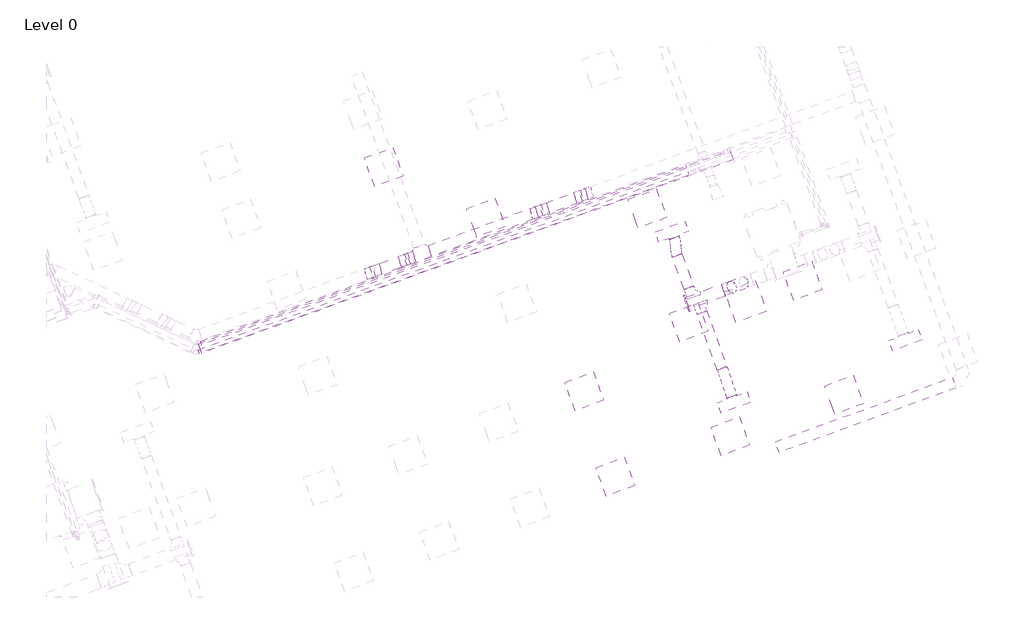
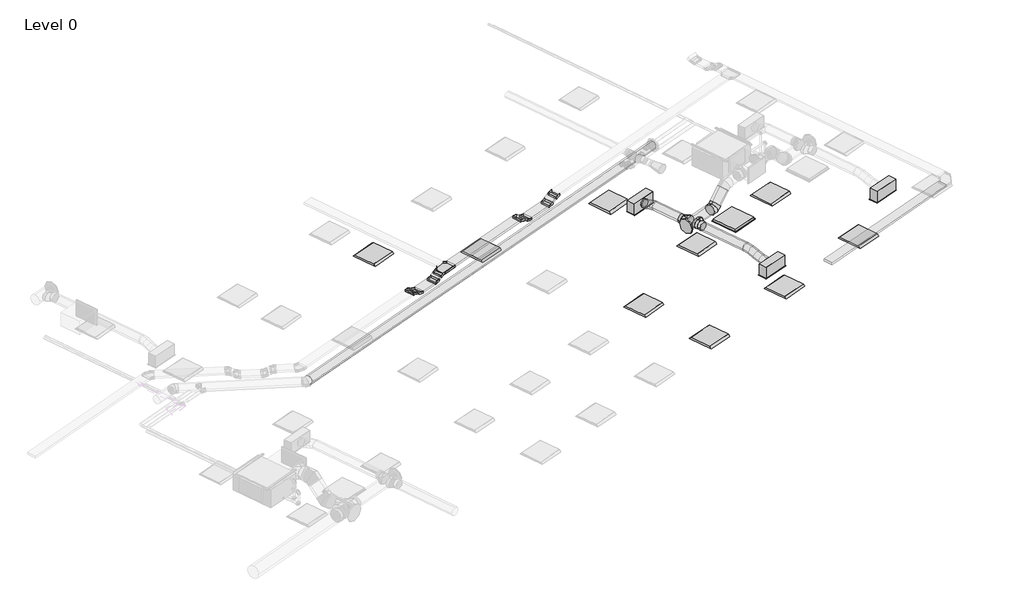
# One storey, part 28 of 34: 9 cable carrier fittings, 9 light fixtures, 7 cable carrier segments, 7 duct segments, 4 air terminals, 4 duct fittings, 2 pipe segments.
"""IFC4 building model written with IfcOpenShell, lengths in millimetres."""

from ifc_helpers import new_model, si_unit, point, frame, frame_2d, origin, place, context, project, spatial, polyline, circle_curve, ellipse_curve, trimmed, segment, composite_curve, outline, extrude, transform, mapped, element, save
from ifc_brep_helpers import plane_surface, cylinder_surface, advanced_brep
from components import return_grille_rectangular_hosted_standard_7b12617c, supply_diffuser_with_plenum_linear_slot_hosted_8c379eed, cable_tray_horizontal_tee_standard_d76b5e15, cable_tray_vertical_inside_bend_standard_9a66f55b, cable_tray_vertical_outside_bend_standard_4df2047e, dw144_round_blank_end_standard_e3d0b58b, dw144_round_segmented_bend_slip_joint_standard_636bd9c1, dw144_round_shoe_branch_slip_joint1_standard_2_559552f4, light_fixture_1c7c1157, light_fixture_b730b5ca

model = new_model("IFC4")

# Units and contexts
model_context = context("Model", 3, world=origin())
ifc_project = project(units=[si_unit("LENGTHUNIT", "METRE", prefix="MILLI")], contexts=[model_context])

# Site, building, storey
site = spatial("IfcSite", under=ifc_project)
building = spatial("IfcBuilding", under=site)
storey = spatial("IfcBuildingStorey", under=building, Name="Level 0", Elevation=0.0)

# Air terminals
placement = place(None, origin())
return_grille_rectangular_hosted_standard_shape = return_grille_rectangular_hosted_standard_7b12617c(model_context)
element("IfcAirTerminal", 1, ObjectType="Return Grille - Rectangular - Hosted : Standard", at=placement, inside=storey, context=model_context, shape_type="MappedRepresentation", body=[
    mapped(return_grille_rectangular_hosted_standard_shape, transform((60068.7424503, 13719.2784407, 2800.0), x_axis=(0.9396926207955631, 0.3420201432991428, 0.0), y_axis=(0.3420201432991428, -0.9396926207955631, 0.0), z_axis=(0.0, 0.0, -1.0))),
])
supply_diffuser_with_plenum_linear_slot_hosted_shape = supply_diffuser_with_plenum_linear_slot_hosted_8c379eed(model_context)
element("IfcAirTerminal", 2, ObjectType="Supply Diffuser with Plenum - Linear Slot - Hosted : 24\" x 8\"-200 In Inlet  4-Slot", at=placement, inside=storey, context=model_context, shape_type="MappedRepresentation", body=[
    mapped(supply_diffuser_with_plenum_linear_slot_hosted_shape, transform((58607.3828335, 15102.9070291, 2800.0), x_axis=(-0.9396926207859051, -0.3420201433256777, 0.0), y_axis=(-0.3420201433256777, 0.9396926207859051, 0.0), z_axis=(0.0, 0.0, -1.0))),
])
element("IfcAirTerminal", 3, ObjectType="Supply Diffuser with Plenum - Linear Slot - Hosted : 24\" x 8\"-200 In Inlet  4-Slot", at=placement, inside=storey, context=model_context, shape_type="MappedRepresentation", body=[
    mapped(supply_diffuser_with_plenum_linear_slot_hosted_shape, transform((59838.6553495, 11720.0135943, 2800.0), x_axis=(0.9396926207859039, 0.342020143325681, 0.0), y_axis=(0.342020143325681, -0.9396926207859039, 0.0), z_axis=(0.0, 0.0, -1.0))),
])
element("IfcAirTerminal", 4, ObjectType="Supply Diffuser with Plenum - Linear Slot - Hosted : 24\" x 8\"-200 In Inlet  4-Slot", at=placement, inside=storey, context=model_context, shape_type="MappedRepresentation", body=[
    mapped(supply_diffuser_with_plenum_linear_slot_hosted_shape, transform((63232.5431876, 12955.2877458, 2800.0), x_axis=(0.9396926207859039, 0.342020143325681, 0.0), y_axis=(0.342020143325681, -0.9396926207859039, 0.0), z_axis=(0.0, 0.0, -1.0))),
])

# Cable carrier fittings
cable_tray_horizontal_tee_standard_shape = cable_tray_horizontal_tee_standard_d76b5e15(model_context)
element("IfcCableCarrierFitting", 5, ObjectType="Cable Tray Horizontal Tee : Standard", at=placement, inside=storey, context=model_context, shape_type="MappedRepresentation", body=[
    mapped(cable_tray_horizontal_tee_standard_shape, transform((53662.1916852, 14665.8825169, 3248.9627355), x_axis=(-0.9396926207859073, -0.3420201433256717, 0.0), y_axis=(0.3420201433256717, -0.9396926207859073, 0.0), z_axis=(0.0, 0.0, 1.0))),
])
cable_tray_vertical_inside_bend_standard_shape = cable_tray_vertical_inside_bend_standard_9a66f55b(model_context)
element("IfcCableCarrierFitting", 6, ObjectType="Cable Tray Vertical Inside Bend : Standard", at=placement, inside=storey, context=model_context, shape_type="MappedRepresentation", body=[
    mapped(cable_tray_vertical_inside_bend_standard_shape, transform((56092.1995201, 15550.3330379, 3125.0), x_axis=(-0.9396926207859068, -0.3420201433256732, 0.0), y_axis=(0.0, 0.0, 1.0), z_axis=(-0.3420201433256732, 0.9396926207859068, 0.0))),
])
element("IfcCableCarrierFitting", 7, ObjectType="Cable Tray Vertical Inside Bend : Standard", at=placement, inside=storey, context=model_context, shape_type="MappedRepresentation", body=[
    mapped(cable_tray_vertical_inside_bend_standard_shape, transform((56761.0702068, 15793.7820584, 3125.0), x_axis=(-0.8137976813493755, -0.29619813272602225, -0.4999999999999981), y_axis=(-0.46984631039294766, -0.17101007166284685, 0.8660254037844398), z_axis=(-0.3420201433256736, 0.9396926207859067, 0.0))),
])
element("IfcCableCarrierFitting", 8, ObjectType="Cable Tray Vertical Inside Bend : Standard", at=placement, inside=storey, context=model_context, shape_type="MappedRepresentation", body=[
    mapped(cable_tray_vertical_inside_bend_standard_shape, transform((52776.5170732, 14343.5233209, 3148.9627355), x_axis=(-0.9396926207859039, -0.3420201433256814, 0.0), y_axis=(0.0, 0.0, 1.0000000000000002), z_axis=(-0.3420201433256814, 0.9396926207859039, 0.0))),
])
element("IfcCableCarrierFitting", 9, ObjectType="Cable Tray Vertical Inside Bend : Standard", at=placement, inside=storey, context=model_context, shape_type="MappedRepresentation", body=[
    mapped(cable_tray_vertical_inside_bend_standard_shape, transform((53283.7846283, 14528.1536118, 3148.9627355), x_axis=(-0.8137976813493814, -0.29619813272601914, -0.4999999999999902), y_axis=(-0.4698463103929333, -0.17101007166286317, 0.8660254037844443), z_axis=(-0.3420201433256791, 0.9396926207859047, 0.0))),
])
cable_tray_vertical_outside_bend_standard_shape = cable_tray_vertical_outside_bend_standard_4df2047e(model_context)
element("IfcCableCarrierFitting", 10, ObjectType="Cable Tray Vertical Outside Bend : Standard", at=placement, inside=storey, context=model_context, shape_type="MappedRepresentation", body=[
    mapped(cable_tray_vertical_outside_bend_standard_shape, transform((55890.4383468, 15476.8979763, 3248.9627355), x_axis=(0.9396926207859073, 0.3420201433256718, 0.0), y_axis=(0.0, 0.0, -1.0000000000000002), z_axis=(-0.3420201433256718, 0.9396926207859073, 0.0))),
])
element("IfcCableCarrierFitting", 11, ObjectType="Cable Tray Vertical Outside Bend : Standard", at=placement, inside=storey, context=model_context, shape_type="MappedRepresentation", body=[
    mapped(cable_tray_vertical_outside_bend_standard_shape, transform((56962.8313802, 15867.2171199, 3248.9627355), x_axis=(0.8137976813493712, 0.29619813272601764, 0.5000000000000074), y_axis=(0.4698463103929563, 0.17101007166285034, -0.8660254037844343), z_axis=(-0.3420201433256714, 0.9396926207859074, 0.0))),
])
element("IfcCableCarrierFitting", 12, ObjectType="Cable Tray Vertical Outside Bend : Standard", at=placement, inside=storey, context=model_context, shape_type="MappedRepresentation", body=[
    mapped(cable_tray_vertical_outside_bend_standard_shape, transform((52613.757537, 14284.2836944, 3248.9627355), x_axis=(0.9396926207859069, 0.34202014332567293, 0.0), y_axis=(0.0, 0.0, -1.0), z_axis=(-0.34202014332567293, 0.9396926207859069, 0.0))),
])
element("IfcCableCarrierFitting", 13, ObjectType="Cable Tray Vertical Outside Bend : Standard", at=placement, inside=storey, context=model_context, shape_type="MappedRepresentation", body=[
    mapped(cable_tray_vertical_outside_bend_standard_shape, transform((53446.5441646, 14587.3932383, 3248.9627355), x_axis=(0.8137976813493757, 0.29619813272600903, 0.5000000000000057), y_axis=(0.4698463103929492, 0.17101007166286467, -0.8660254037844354), z_axis=(-0.34202014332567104, 0.9396926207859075, 0.0))),
])

# Cable carrier segments
element("IfcCableCarrierSegment", 14, ObjectType="Perforated Cable Tray", at=placement, inside=storey, context=model_context, shape_type="SweptSolid", body=[
    extrude(outline(polyline([(53853.3690022, 14615.7453704), (53776.4144699, 14827.17621), (55789.0136109, 15559.7023909), (55865.9681432, 15348.2715512), (53853.3690022, 14615.7453704)])), frame((0.0, 0.0, 3223.9627355), z_axis=(0.0, 0.0, 1.0), x_axis=(1.0, 0.0, 0.0)), (0.0, 0.0, 1.0), 50.0),
])
element("IfcCableCarrierSegment", 15, ObjectType="Perforated Cable Tray", at=placement, inside=storey, context=model_context, shape_type="SweptSolid", body=[
    extrude(outline(polyline([(0.0, -225.0), (0.0, 0.0), (113.9508747, 0.0), (113.9508747, -225.0), (0.0, -225.0)])), frame((55894.7290307, 15598.179657, 3193.8184513), z_axis=(0.4698463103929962, 0.1710100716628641, 0.8660254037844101), x_axis=(0.8137976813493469, 0.29619813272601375, -0.5000000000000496)), (0.0, 0.0, 1.0), 50.0),
])
element("IfcCableCarrierSegment", 16, ObjectType="Perforated Cable Tray", at=placement, inside=storey, context=model_context, shape_type="SweptSolid", body=[
    extrude(outline(polyline([(56193.624256, 15467.5286233), (56116.6697237, 15678.959463), (56659.645471, 15876.5864729), (56736.6000032, 15665.1556332), (56193.624256, 15467.5286233)])), frame((0.0, 0.0, 3100.0), z_axis=(0.0, 0.0, 1.0), x_axis=(1.0, 0.0, 0.0)), (0.0, 0.0, 1.0), 50.0),
])
element("IfcCableCarrierSegment", 17, ObjectType="Perforated Cable Tray", at=placement, inside=storey, context=model_context, shape_type="SweptSolid", body=[
    extrude(outline(polyline([(1e-07, -224.9999999), (0.0, 0.0), (113.9508747, 0.0), (113.9508747, -224.9999999), (1e-07, -224.9999999)])), frame((56788.8532063, 15923.6142426, 3136.843014), z_axis=(-0.4698463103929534, -0.17101007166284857, 0.8660254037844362), x_axis=(0.813797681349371, 0.2961981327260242, 0.5000000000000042)), (0.0, 0.0, 1.0), 50.0),
])
element("IfcCableCarrierSegment", 18, ObjectType="Perforated Cable Tray", at=placement, inside=storey, context=model_context, shape_type="SweptSolid", body=[
    extrude(outline(polyline([(64157.7578179, 12218.7489992), (64234.7123502, 12007.3181595), (60729.218143, 10731.4226117), (60652.2636108, 10942.8534514), (64157.7578179, 12218.7489992)])), frame((0.0, 0.0, 3223.9627355), z_axis=(0.0, 0.0, 1.0), x_axis=(1.0, 0.0, 0.0)), (0.0, 0.0, 1.0), 50.0),
])
element("IfcCableCarrierSegment", 19, ObjectType="Perforated Cable Tray", at=placement, inside=storey, context=model_context, shape_type="SweptSolid", body=[
    extrude(outline(polyline([(52877.9418091, 14260.7189064), (52800.9872768, 14472.149746), (53182.3598925, 14610.9580263), (53259.3144247, 14399.5271866), (52877.9418091, 14260.7189064)])), frame((0.0, 0.0, 3123.9627355), z_axis=(0.0, 0.0, 1.0), x_axis=(1.0, 0.0, 0.0)), (0.0, 0.0, 1.0), 50.0),
])
element("IfcCableCarrierSegment", 20, ObjectType="Perforated Cable Tray", at=placement, inside=storey, context=model_context, shape_type="SweptSolid", body=[
    extrude(outline(polyline([(0.0, -225.0), (0.0, 0.0), (66.0254038, 0.0), (66.0254038, -225.0), (0.0, -225.0)])), frame((53311.5676278, 14657.985796, 3160.8057494), z_axis=(-0.46984631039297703, -0.17101007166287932, 0.8660254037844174), x_axis=(0.8137976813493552, 0.2961981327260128, 0.5000000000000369)), (0.0, 0.0, 1.0), 50.0),
])

# Duct fittings
dw144_round_blank_end_standard_shape = dw144_round_blank_end_standard_e3d0b58b(model_context)
element("IfcDuctFitting", 21, ObjectType="DW144 Round Blank End : Standard", at=placement, inside=storey, context=model_context, shape_type="MappedRepresentation", body=[
    mapped(dw144_round_blank_end_standard_shape, transform((58910.1934303, 13684.7593256, 3072.2088531), x_axis=(-0.9396926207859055, -0.3420201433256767, 0.0), y_axis=(0.3420201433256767, -0.9396926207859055, 0.0), z_axis=(0.0, 0.0, 1.0))),
])
dw144_round_segmented_bend_slip_joint_standard_shape = dw144_round_segmented_bend_slip_joint_standard_636bd9c1(model_context)
element("IfcDuctFitting", 22, ObjectType="DW144 Round Segmented Bend - Slip Joint : Standard", at=placement, inside=storey, context=model_context, shape_type="MappedRepresentation", body=[
    mapped(dw144_round_segmented_bend_slip_joint_standard_shape, transform((59723.6586367, 13980.8364474, 3072.2088531), x_axis=(-0.6644630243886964, -0.24184476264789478, -0.7071067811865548), y_axis=(-0.6644630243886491, -0.24184476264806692, 0.7071067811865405), z_axis=(-0.34202014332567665, 0.9396926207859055, 0.0))),
])
dw144_round_shoe_branch_slip_joint1_standard_2_shape = dw144_round_shoe_branch_slip_joint1_standard_2_559552f4(model_context)
element("IfcDuctFitting", 23, ObjectType="DW144 Round Shoe Branch - Slip Joint1 : Standard 2", at=placement, inside=storey, context=model_context, shape_type="MappedRepresentation", body=[
    mapped(dw144_round_shoe_branch_slip_joint1_standard_2_shape, transform((58998.2785619, 13849.8419132, 3072.2088531), x_axis=(-0.3420201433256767, 0.9396926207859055, 0.0), y_axis=(0.9396926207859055, 0.3420201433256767, 0.0), z_axis=(0.0, 0.0, -1.0))),
])
element("IfcDuctFitting", 24, ObjectType="DW144 Round Shoe Branch - Slip Joint1 : Standard 2", at=placement, inside=storey, context=model_context, shape_type="MappedRepresentation", body=[
    mapped(dw144_round_shoe_branch_slip_joint1_standard_2_shape, transform((59152.3357519, 13639.8697016, 3072.2088531), x_axis=(0.3420201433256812, -0.9396926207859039, 0.0), y_axis=(0.9396926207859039, 0.3420201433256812, 0.0), z_axis=(0.0, 0.0, 1.0))),
])

# Duct segments
element("IfcDuctSegment", 25, ObjectType="DW144 Segmented Bend / Shoe Branch", at=placement, inside=storey, context=model_context, shape_type="SweptSolid", body=[
    extrude(outline(composite_curve([segment(trimmed(circle_curve(frame_2d((0.0, 125.0)), 125.0), [point((125.0, 125.0))], [point((0.0, 0.0))], False, "CARTESIAN"), True, "CONTINUOUS"), segment(trimmed(circle_curve(frame_2d((0.0, 125.0)), 125.0), [point((0.0, 0.0))], [point((-125.0, 125.0))], False, "CARTESIAN"), True, "CONTINUOUS"), segment(trimmed(circle_curve(frame_2d((0.0, 125.0)), 125.0), [point((-125.0, 125.0))], [point((0.0, 250.0))], False, "CARTESIAN"), True, "CONTINUOUS"), segment(trimmed(circle_curve(frame_2d((0.0, 125.0)), 125.0), [point((0.0, 250.0))], [point((125.0, 125.0))], False, "CARTESIAN"), True, "CONTINUOUS")], self_intersect=False)), frame((58910.1934303, 13684.7593256, 3197.2088531), z_axis=(0.9396926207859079, 0.3420201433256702, 0.0), x_axis=(0.3420201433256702, -0.9396926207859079, 0.0)), (0.0, 0.0, 1.0), 762.1182008),
])
element("IfcDuctSegment", 26, ObjectType="DW144 Segmented Bend / Shoe Branch", at=placement, inside=storey, context=model_context, shape_type="SweptSolid", body=[
    extrude(outline(composite_curve([segment(trimmed(circle_curve(frame_2d((0.0, -100.0)), 100.0), [point((-100.0, -100.0))], [point((0.0, 0.0))], False, "CARTESIAN"), True, "CONTINUOUS"), segment(trimmed(circle_curve(frame_2d((0.0, -100.0)), 100.0), [point((0.0, 0.0))], [point((100.0, -100.0))], False, "CARTESIAN"), True, "CONTINUOUS"), segment(trimmed(circle_curve(frame_2d((0.0, -100.0)), 100.0), [point((100.0, -100.0))], [point((0.0, -200.0))], False, "CARTESIAN"), True, "CONTINUOUS"), segment(trimmed(circle_curve(frame_2d((0.0, -100.0)), 100.0), [point((0.0, -200.0))], [point((-100.0, -100.0))], False, "CARTESIAN"), True, "CONTINUOUS")], self_intersect=False)), frame((58946.9755404, 13990.7958063, 2972.2088531), z_axis=(-0.3420201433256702, 0.9396926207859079, 0.0), x_axis=(0.9396926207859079, 0.3420201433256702, 0.0)), (0.0, 0.0, 1.0), 682.8884371),
])
element("IfcDuctSegment", 27, ObjectType="DW144 Segmented Bend / Shoe Branch", at=placement, inside=storey, context=model_context, shape_type="SweptSolid", body=[
    extrude(outline(composite_curve([segment(trimmed(circle_curve(frame_2d((0.0, -100.0)), 100.0), [point((-100.0, -100.0))], [point((0.0, 0.0))], False, "CARTESIAN"), True, "CONTINUOUS"), segment(trimmed(circle_curve(frame_2d((0.0, -100.0)), 100.0), [point((0.0, 0.0))], [point((100.0, -100.0))], False, "CARTESIAN"), True, "CONTINUOUS"), segment(trimmed(circle_curve(frame_2d((0.0, -100.0)), 100.0), [point((100.0, -100.0))], [point((0.0, -200.0))], False, "CARTESIAN"), True, "CONTINUOUS"), segment(trimmed(circle_curve(frame_2d((0.0, -100.0)), 100.0), [point((0.0, -200.0))], [point((-100.0, -100.0))], False, "CARTESIAN"), True, "CONTINUOUS")], self_intersect=False)), frame((59604.382353, 12397.8818724, 2972.2088531), z_axis=(-0.3420201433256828, 0.9396926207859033, 0.0), x_axis=(0.9396926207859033, 0.3420201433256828, 0.0)), (0.0, 0.0, 1.0), 1171.6958415),
])
element("IfcDuctSegment", 28, ObjectType="DW144 Segmented Bend / Shoe Branch", at=placement, inside=storey, context=model_context, shape_type="SweptSolid", body=[
    extrude(outline(composite_curve([segment(trimmed(circle_curve(frame_2d((0.0, -125.0)), 125.0), [point((-57.2076922, -13.8591887))], [point((111.1408113, -67.7923077))], False, "CARTESIAN"), True, "CONTINUOUS"), segment(trimmed(circle_curve(frame_2d((0.0, -125.0)), 125.0), [point((111.1408113, -67.7923077))], [point((57.2076923, -236.1408114))], False, "CARTESIAN"), True, "CONTINUOUS"), segment(trimmed(circle_curve(frame_2d((0.0, -125.0)), 125.0), [point((57.2076923, -236.1408114))], [point((-111.1408114, -182.2076923))], False, "CARTESIAN"), True, "CONTINUOUS"), segment(trimmed(circle_curve(frame_2d((0.0, -125.0)), 125.0), [point((-111.1408114, -182.2076923))], [point((-57.2076922, -13.8591887))], False, "CARTESIAN"), True, "CONTINUOUS")], self_intersect=False)), frame((59792.4660358, 14124.1538736, 3104.9802107), z_axis=(0.6644630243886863, 0.24184476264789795, 0.7071067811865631), x_axis=(0.7473211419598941, -0.21503058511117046, -0.6287073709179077)), (0.0, 0.0, 1.0), 354.8538129),
])
element("IfcDuctSegment", 29, ObjectType="DW144 Segmented Bend / Shoe Branch", at=placement, inside=storey, context=model_context, shape_type="SweptSolid", body=[
    extrude(outline(composite_curve([segment(trimmed(circle_curve(frame_2d((0.0, 100.0)), 100.0), [point((100.0, 100.0))], [point((0.0, 0.0))], False, "CARTESIAN"), True, "CONTINUOUS"), segment(trimmed(circle_curve(frame_2d((0.0, 100.0)), 100.0), [point((0.0, 0.0))], [point((-100.0, 100.0))], False, "CARTESIAN"), True, "CONTINUOUS"), segment(trimmed(circle_curve(frame_2d((0.0, 100.0)), 100.0), [point((-100.0, 100.0))], [point((0.0, 200.0))], False, "CARTESIAN"), True, "CONTINUOUS"), segment(trimmed(circle_curve(frame_2d((0.0, 100.0)), 100.0), [point((0.0, 200.0))], [point((100.0, 100.0))], False, "CARTESIAN"), True, "CONTINUOUS")], self_intersect=False)), frame((49264.7509772, 12791.2817801, 3150.0), z_axis=(0.9396926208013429, 0.3420201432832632, 0.0), x_axis=(0.3420201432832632, -0.9396926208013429, 0.0)), (0.0, 0.0, 1.0), 11193.8317045),
])
element("IfcDuctSegment", 30, ObjectType="Flex - Round", at=placement, inside=storey, context=model_context, shape_type="AdvancedBrep", body=[
    advanced_brep(
    [(58619.4446772, 14598.2990171, 3072.2088531), (58713.4139393, 14632.5010315, 2972.2088531), (58807.3832013, 14666.7030458, 3072.2088531), (58713.4139393, 14632.5010315, 3172.2088531), (58611.8142221, 14619.26352, 3072.2088531), (58711.4296321, 14637.9528704, 2972.2088531), (58803.6155299, 14677.054638, 3072.2088531), (58704.0001199, 14658.3652876, 3172.2088531), (58557.4999679, 14947.578636, 2954.4), (58651.46923, 14981.7806503, 3054.4), (58745.4384921, 15015.9826646, 2954.4), (58651.46923, 14981.7806503, 2854.4), (58596.4446641, 14683.4841683, 3057.7411781), (58702.9406834, 14673.4233627, 2964.2180345), (58792.9533059, 14721.6060124, 3062.1722867), (58686.4572866, 14731.6668179, 3155.6954303), (58586.4251451, 14759.2467003, 3026.0114711), (58695.241092, 14731.6437764, 2939.8350497), (58784.5209536, 14785.3671928, 3035.4688025), (58675.7050067, 14812.9701167, 3121.645224), (58580.3622156, 14828.914489, 2991.1400506), (58689.1781625, 14801.3115651, 2904.9636291), (58778.4580242, 14855.0349815, 3000.597382), (58669.6420773, 14882.6379054, 3086.7738035), (58571.9298634, 14892.6756694, 2964.4365665), (58678.4258827, 14882.6148638, 2870.9134228), (58768.4385052, 14930.7975135, 2968.867675), (58661.9424858, 14940.858319, 3062.3908187), (58561.2676394, 14937.2270437, 2954.4), (58660.8830494, 14955.9163941, 2854.4), (58753.0689471, 14995.0181618, 2954.4), (58653.4535371, 14976.3288113, 3054.4)],
    [
        (0, 1, circle_curve(frame((58713.4139393, 14632.5010315, 3072.2088531), z_axis=(0.3420201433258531, -0.9396926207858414, 0.0), x_axis=(-0.9396926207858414, -0.3420201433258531, 0.0)), 100.0)),
        (1, 2, circle_curve(frame((58713.4139393, 14632.5010315, 3072.2088531), z_axis=(0.3420201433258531, -0.9396926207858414, 0.0), x_axis=(-0.9396926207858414, -0.3420201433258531, 0.0)), 100.0)),
        (2, 3, circle_curve(frame((58713.4139393, 14632.5010315, 3072.2088531), z_axis=(0.3420201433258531, -0.9396926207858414, 0.0), x_axis=(-0.9396926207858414, -0.3420201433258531, 0.0)), 100.0)),
        (3, 0, circle_curve(frame((58713.4139393, 14632.5010315, 3072.2088531), z_axis=(0.3420201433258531, -0.9396926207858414, 0.0), x_axis=(-0.9396926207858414, -0.3420201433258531, 0.0)), 100.0)),
        (0, 4),
        (4, 5, ellipse_curve(frame((58707.714876, 14648.159079, 3072.2088531), z_axis=(0.2868145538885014, -0.951900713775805, 0.10780743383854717), x_axis=(0.47182638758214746, 0.042424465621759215, -0.8806702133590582)), 100.746488, 100.0)),
        (5, 1),
        (5, 6, ellipse_curve(frame((58707.714876, 14648.159079, 3072.2088531), z_axis=(0.2868145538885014, -0.951900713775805, 0.10780743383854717), x_axis=(0.47182638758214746, 0.042424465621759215, -0.8806702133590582)), 100.746488, 100.0)),
        (6, 2),
        (6, 7, ellipse_curve(frame((58707.714876, 14648.159079, 3072.2088531), z_axis=(0.2868145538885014, -0.951900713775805, 0.10780743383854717), x_axis=(0.47182638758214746, 0.042424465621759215, -0.8806702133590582)), 100.746488, 100.0)),
        (7, 3),
        (7, 4, ellipse_curve(frame((58707.714876, 14648.159079, 3072.2088531), z_axis=(0.2868145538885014, -0.951900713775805, 0.10780743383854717), x_axis=(0.47182638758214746, 0.042424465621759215, -0.8806702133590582)), 100.746488, 100.0)),
        (8, 9, circle_curve(frame((58651.46923, 14981.7806503, 2954.4), z_axis=(-0.3420201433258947, 0.939692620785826, 0.0), x_axis=(-0.9396926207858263, -0.34202014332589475, 0.0)), 100.0)),
        (9, 10, circle_curve(frame((58651.46923, 14981.7806503, 2954.4), z_axis=(-0.3420201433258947, 0.939692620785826, 0.0), x_axis=(-0.9396926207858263, -0.34202014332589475, 0.0)), 100.0)),
        (10, 11, circle_curve(frame((58651.46923, 14981.7806503, 2954.4), z_axis=(-0.3420201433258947, 0.939692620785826, 0.0), x_axis=(-0.9396926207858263, -0.34202014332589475, 0.0)), 100.0)),
        (11, 8, circle_curve(frame((58651.46923, 14981.7806503, 2954.4), z_axis=(-0.3420201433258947, 0.939692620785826, 0.0), x_axis=(-0.9396926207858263, -0.34202014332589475, 0.0)), 100.0)),
        (4, 12),
        (12, 13, ellipse_curve(frame((58694.698985, 14702.5450903, 3059.9567324), z_axis=(0.17512607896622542, -0.9376352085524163, 0.3002849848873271), x_axis=(0.5236540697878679, -0.16957305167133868, -0.8348840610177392)), 100.5188435, 100.0)),
        (13, 5),
        (13, 14, ellipse_curve(frame((58694.698985, 14702.5450903, 3059.9567324), z_axis=(0.17512607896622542, -0.9376352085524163, 0.3002849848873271), x_axis=(0.5236540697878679, -0.16957305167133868, -0.8348840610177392)), 100.5188435, 100.0)),
        (14, 6),
        (14, 15, ellipse_curve(frame((58694.698985, 14702.5450903, 3059.9567324), z_axis=(0.17512607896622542, -0.9376352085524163, 0.3002849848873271), x_axis=(0.5236540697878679, -0.16957305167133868, -0.8348840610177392)), 100.5188435, 100.0)),
        (15, 7),
        (15, 12, ellipse_curve(frame((58694.698985, 14702.5450903, 3059.9567324), z_axis=(0.17512607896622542, -0.9376352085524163, 0.3002849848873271), x_axis=(0.5236540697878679, -0.16957305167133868, -0.8348840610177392)), 100.5188435, 100.0)),
        (12, 16),
        (16, 17, ellipse_curve(frame((58685.4730493, 14772.3069465, 3030.7401368), z_axis=(0.0994162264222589, -0.9042889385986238, 0.4151842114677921), x_axis=(0.5431382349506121, -0.3002937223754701, -0.7841074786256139)), 100.0802707, 100.0)),
        (17, 13),
        (17, 18, ellipse_curve(frame((58685.4730493, 14772.3069465, 3030.7401368), z_axis=(0.0994162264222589, -0.9042889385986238, 0.4151842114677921), x_axis=(0.5431382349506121, -0.3002937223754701, -0.7841074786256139)), 100.0802707, 100.0)),
        (18, 14),
        (18, 19, ellipse_curve(frame((58685.4730493, 14772.3069465, 3030.7401368), z_axis=(0.0994162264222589, -0.9042889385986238, 0.4151842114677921), x_axis=(0.5431382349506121, -0.3002937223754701, -0.7841074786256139)), 100.0802707, 100.0)),
        (19, 15),
        (19, 16, ellipse_curve(frame((58685.4730493, 14772.3069465, 3030.7401368), z_axis=(0.0994162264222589, -0.9042889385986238, 0.4151842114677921), x_axis=(0.5431382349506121, -0.3002937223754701, -0.7841074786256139)), 100.0802707, 100.0)),
        (16, 20),
        (20, 21, ellipse_curve(frame((58679.4101199, 14841.9747352, 2995.8687163), z_axis=(0.09941622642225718, -0.9042889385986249, 0.41518421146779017), x_axis=(-0.5431382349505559, 0.30029372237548, 0.784107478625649)), 100.0802707, 100.0)),
        (21, 17),
        (21, 22, ellipse_curve(frame((58679.4101199, 14841.9747352, 2995.8687163), z_axis=(0.09941622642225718, -0.9042889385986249, 0.41518421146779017), x_axis=(-0.5431382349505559, 0.30029372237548, 0.784107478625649)), 100.0802707, 100.0)),
        (22, 18),
        (22, 23, ellipse_curve(frame((58679.4101199, 14841.9747352, 2995.8687163), z_axis=(0.09941622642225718, -0.9042889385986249, 0.41518421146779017), x_axis=(-0.5431382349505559, 0.30029372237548, 0.784107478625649)), 100.0802707, 100.0)),
        (23, 19),
        (23, 20, ellipse_curve(frame((58679.4101199, 14841.9747352, 2995.8687163), z_axis=(0.09941622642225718, -0.9042889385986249, 0.41518421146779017), x_axis=(-0.5431382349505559, 0.30029372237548, 0.784107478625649)), 100.0802707, 100.0)),
        (20, 24),
        (24, 25, ellipse_curve(frame((58670.1841843, 14911.7365914, 2966.6521207), z_axis=(0.1751260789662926, -0.9376352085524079, 0.3002849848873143), x_axis=(-0.523654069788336, 0.16957305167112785, 0.8348840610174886)), 100.5188435, 100.0)),
        (25, 21),
        (25, 26, ellipse_curve(frame((58670.1841843, 14911.7365914, 2966.6521207), z_axis=(0.1751260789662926, -0.9376352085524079, 0.3002849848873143), x_axis=(-0.523654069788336, 0.16957305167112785, 0.8348840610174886)), 100.5188435, 100.0)),
        (26, 22),
        (26, 27, ellipse_curve(frame((58670.1841843, 14911.7365914, 2966.6521207), z_axis=(0.1751260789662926, -0.9376352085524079, 0.3002849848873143), x_axis=(-0.523654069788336, 0.16957305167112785, 0.8348840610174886)), 100.5188435, 100.0)),
        (27, 23),
        (27, 24, ellipse_curve(frame((58670.1841843, 14911.7365914, 2966.6521207), z_axis=(0.1751260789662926, -0.9376352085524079, 0.3002849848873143), x_axis=(-0.523654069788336, 0.16957305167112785, 0.8348840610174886)), 100.5188435, 100.0)),
        (24, 28),
        (28, 29, ellipse_curve(frame((58657.1682932, 14966.1226027, 2954.4), z_axis=(0.2868145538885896, -0.95190071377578, 0.10780743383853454), x_axis=(-0.4718263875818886, -0.04242446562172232, 0.8806702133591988)), 100.746488, 100.0)),
        (29, 25),
        (29, 30, ellipse_curve(frame((58657.1682932, 14966.1226027, 2954.4), z_axis=(0.2868145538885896, -0.95190071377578, 0.10780743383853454), x_axis=(-0.4718263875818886, -0.04242446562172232, 0.8806702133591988)), 100.746488, 100.0)),
        (30, 26),
        (30, 31, ellipse_curve(frame((58657.1682932, 14966.1226027, 2954.4), z_axis=(0.2868145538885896, -0.95190071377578, 0.10780743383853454), x_axis=(-0.4718263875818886, -0.04242446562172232, 0.8806702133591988)), 100.746488, 100.0)),
        (31, 27),
        (31, 28, ellipse_curve(frame((58657.1682932, 14966.1226027, 2954.4), z_axis=(0.2868145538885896, -0.95190071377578, 0.10780743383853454), x_axis=(-0.4718263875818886, -0.04242446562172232, 0.8806702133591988)), 100.746488, 100.0)),
        (28, 8),
        (11, 29),
        (10, 30),
        (9, 31),
    ],
    [
        plane_surface(frame((58713.4139393, 14632.5010315, 3172.2088531), z_axis=(0.3420201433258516, -0.9396926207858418, 0.0), x_axis=(0.9396926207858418, 0.3420201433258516, 0.0))),
        cylinder_surface(frame((58713.4139393, 14632.5010315, 3072.2088531), z_axis=(0.3420201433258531, -0.9396926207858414, 0.0), x_axis=(-0.9396926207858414, -0.3420201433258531, 0.0)), 100.0),
        plane_surface(frame((58651.46923, 14981.7806503, 3054.4), z_axis=(-0.3420201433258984, 0.9396926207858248, 0.0), x_axis=(0.9396926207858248, 0.3420201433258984, 0.0))),
        cylinder_surface(frame((58707.714876, 14648.159079, 3072.2088531), z_axis=(0.2273586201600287, -0.950002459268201, 0.21401725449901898), x_axis=(-0.9718455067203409, -0.23530883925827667, -0.012085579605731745)), 100.0),
        cylinder_surface(frame((58694.698985, 14702.5450903, 3059.9567324), z_axis=(0.12108565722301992, -0.9155884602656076, 0.3834527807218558), x_axis=(-0.9882405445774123, -0.1475288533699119, -0.0401978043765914)), 100.0),
        cylinder_surface(frame((58685.4730493, 14772.3069465, 3030.7401368), z_axis=(0.07758731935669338, -0.8915388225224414, 0.44624963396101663), x_axis=(-0.9919133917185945, -0.1141206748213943, -0.05553642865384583)), 100.0),
        cylinder_surface(frame((58679.4101199, 14841.9747352, 2995.8687163), z_axis=(0.12108565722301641, -0.9155884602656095, 0.3834527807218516), x_axis=(-0.9882405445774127, -0.1475288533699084, -0.040197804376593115)), 100.0),
        cylinder_surface(frame((58670.1841843, 14911.7365914, 2966.6521207), z_axis=(0.22735862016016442, -0.950002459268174, 0.21401725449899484), x_axis=(-0.9718455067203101, -0.2353088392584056, -0.012085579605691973)), 100.0),
        cylinder_surface(frame((58657.1682932, 14966.1226027, 2954.4), z_axis=(0.34202014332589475, -0.9396926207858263, 0.0), x_axis=(-0.9396926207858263, -0.34202014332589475, 0.0)), 100.0),
    ],
    [
        (0, [[1, 2, 3, 4]]),
        (1, [[-1, 5, 6, 7]]),
        (1, [[-2, -7, 8, 9]]),
        (1, [[-3, -9, 10, 11]]),
        (1, [[-4, -11, 12, -5]]),
        (2, [[13, 14, 15, 16]]),
        (3, [[-6, 17, 18, 19]]),
        (3, [[-8, -19, 20, 21]]),
        (3, [[-10, -21, 22, 23]]),
        (3, [[-12, -23, 24, -17]]),
        (4, [[-18, 25, 26, 27]]),
        (4, [[-20, -27, 28, 29]]),
        (4, [[-22, -29, 30, 31]]),
        (4, [[-24, -31, 32, -25]]),
        (5, [[-26, 33, 34, 35]]),
        (5, [[-28, -35, 36, 37]]),
        (5, [[-30, -37, 38, 39]]),
        (5, [[-32, -39, 40, -33]]),
        (6, [[-34, 41, 42, 43]]),
        (6, [[-36, -43, 44, 45]]),
        (6, [[-38, -45, 46, 47]]),
        (6, [[-40, -47, 48, -41]]),
        (7, [[-42, 49, 50, 51]]),
        (7, [[-44, -51, 52, 53]]),
        (7, [[-46, -53, 54, 55]]),
        (7, [[-48, -55, 56, -49]]),
        (8, [[-50, 57, -16, 58]]),
        (8, [[-52, -58, -15, 59]]),
        (8, [[-54, -59, -14, 60]]),
        (8, [[-56, -60, -13, -57]]),
    ],
),
])
element("IfcDuctSegment", 31, ObjectType="Flex - Round", at=placement, inside=storey, context=model_context, shape_type="AdvancedBrep", body=[
    advanced_brep(
    [(59698.3516151, 12432.0838867, 3072.2088531), (59604.382353, 12397.8818724, 2972.2088531), (59510.4130909, 12363.6798581, 3072.2088531), (59604.382353, 12397.8818724, 3172.2088531), (59702.7973117, 12419.8694356, 3072.2088531), (59606.2920858, 12392.6349247, 2972.2088531), (59514.400583, 12352.7243137, 3072.2088531), (59610.9058089, 12379.9588246, 3172.2088531), (59888.5382151, 11875.3419875, 2954.4), (59794.5689531, 11841.1399731, 3054.4), (59700.599691, 11806.9379588, 2954.4), (59794.5689531, 11841.1399731, 2854.4), (59747.9755246, 12290.3457621, 3053.6205079), (59646.608591, 12277.0495237, 2955.6208327), (59558.7003698, 12225.7190439, 3053.9819318), (59660.0673034, 12239.0152823, 3151.981607), (59794.3190603, 12151.206309, 3012.94305), (59690.6737688, 12144.7504952, 2916.9431749), (59604.6322458, 12087.8155366, 3013.6658031), (59708.2775373, 12094.2713503, 3109.6656782), (59840.2509363, 12013.3028017, 2972.6269213), (59738.8840026, 12000.0065632, 2874.6272462), (59650.9757814, 11948.6760834, 2972.9883453), (59752.3427151, 11961.9723218, 3070.9880204), (59884.5507231, 11886.2975319, 2954.4), (59788.0454971, 11859.063021, 2854.4), (59696.1539943, 11819.15241, 2954.4), (59792.6592203, 11846.3869208, 3054.4)],
    [
        (0, 1, circle_curve(frame((59604.382353, 12397.8818724, 3072.2088531), z_axis=(-0.34202014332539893, 0.9396926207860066, 0.0), x_axis=(0.9396926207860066, 0.34202014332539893, 0.0)), 100.0)),
        (1, 2, circle_curve(frame((59604.382353, 12397.8818724, 3072.2088531), z_axis=(-0.34202014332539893, 0.9396926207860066, 0.0), x_axis=(0.9396926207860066, 0.34202014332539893, 0.0)), 100.0)),
        (2, 3, circle_curve(frame((59604.382353, 12397.8818724, 3072.2088531), z_axis=(-0.34202014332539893, 0.9396926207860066, 0.0), x_axis=(0.9396926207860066, 0.34202014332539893, 0.0)), 100.0)),
        (3, 0, circle_curve(frame((59604.382353, 12397.8818724, 3072.2088531), z_axis=(-0.34202014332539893, 0.9396926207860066, 0.0), x_axis=(0.9396926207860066, 0.34202014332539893, 0.0)), 100.0)),
        (0, 4),
        (4, 5, ellipse_curve(frame((59608.5989473, 12386.2968746, 3072.2088531), z_axis=(-0.33495707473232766, 0.9398272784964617, 0.06729371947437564), x_axis=(-0.11578366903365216, 0.029822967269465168, -0.9928266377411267)), 100.2294427, 100.0)),
        (5, 1),
        (5, 6, ellipse_curve(frame((59608.5989473, 12386.2968746, 3072.2088531), z_axis=(-0.33495707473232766, 0.9398272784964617, 0.06729371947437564), x_axis=(-0.11578366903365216, 0.029822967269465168, -0.9928266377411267)), 100.2294427, 100.0)),
        (6, 2),
        (6, 7, ellipse_curve(frame((59608.5989473, 12386.2968746, 3072.2088531), z_axis=(-0.33495707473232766, 0.9398272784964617, 0.06729371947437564), x_axis=(-0.11578366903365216, 0.029822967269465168, -0.9928266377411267)), 100.2294427, 100.0)),
        (7, 3),
        (7, 4, ellipse_curve(frame((59608.5989473, 12386.2968746, 3072.2088531), z_axis=(-0.33495707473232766, 0.9398272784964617, 0.06729371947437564), x_axis=(-0.11578366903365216, 0.029822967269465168, -0.9928266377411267)), 100.2294427, 100.0)),
        (8, 9, circle_curve(frame((59794.5689531, 11841.1399731, 2954.4), z_axis=(0.3420201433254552, -0.9396926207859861, 0.0), x_axis=(0.9396926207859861, 0.3420201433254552, 0.0)), 100.0)),
        (9, 10, circle_curve(frame((59794.5689531, 11841.1399731, 2954.4), z_axis=(0.3420201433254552, -0.9396926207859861, 0.0), x_axis=(0.9396926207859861, 0.3420201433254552, 0.0)), 100.0)),
        (10, 11, circle_curve(frame((59794.5689531, 11841.1399731, 2954.4), z_axis=(0.3420201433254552, -0.9396926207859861, 0.0), x_axis=(0.9396926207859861, 0.3420201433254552, 0.0)), 100.0)),
        (11, 8, circle_curve(frame((59794.5689531, 11841.1399731, 2954.4), z_axis=(0.3420201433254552, -0.9396926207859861, 0.0), x_axis=(0.9396926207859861, 0.3420201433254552, 0.0)), 100.0)),
        (4, 12),
        (12, 13, ellipse_curve(frame((59653.3379472, 12258.032403, 3053.8012198), z_axis=(-0.3161714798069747, 0.9271110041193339, 0.20124805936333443), x_axis=(-0.16011775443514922, 0.15693918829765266, -0.9745421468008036)), 100.2336292, 100.0)),
        (13, 5),
        (13, 14, ellipse_curve(frame((59653.3379472, 12258.032403, 3053.8012198), z_axis=(-0.3161714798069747, 0.9271110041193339, 0.20124805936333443), x_axis=(-0.16011775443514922, 0.15693918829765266, -0.9745421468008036)), 100.2336292, 100.0)),
        (14, 6),
        (14, 15, ellipse_curve(frame((59653.3379472, 12258.032403, 3053.8012198), z_axis=(-0.3161714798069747, 0.9271110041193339, 0.20124805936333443), x_axis=(-0.16011775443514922, 0.15693918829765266, -0.9745421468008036)), 100.2336292, 100.0)),
        (15, 7),
        (15, 12, ellipse_curve(frame((59653.3379472, 12258.032403, 3053.8012198), z_axis=(-0.3161714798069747, 0.9271110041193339, 0.20124805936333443), x_axis=(-0.16011775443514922, 0.15693918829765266, -0.9745421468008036)), 100.2336292, 100.0)),
        (12, 16),
        (16, 17, circle_curve(frame((59699.475653, 12119.5109228, 3013.3044266), z_axis=(-0.3045086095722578, 0.9142410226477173, 0.26727861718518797), x_axis=(0.948434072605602, 0.3169538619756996, -0.0036137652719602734)), 100.0)),
        (17, 13),
        (17, 18, circle_curve(frame((59699.475653, 12119.5109228, 3013.3044266), z_axis=(-0.3045086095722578, 0.9142410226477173, 0.26727861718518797), x_axis=(0.948434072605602, 0.3169538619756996, -0.0036137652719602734)), 100.0)),
        (18, 14),
        (18, 19, circle_curve(frame((59699.475653, 12119.5109228, 3013.3044266), z_axis=(-0.3045086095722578, 0.9142410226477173, 0.26727861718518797), x_axis=(0.948434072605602, 0.3169538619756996, -0.0036137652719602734)), 100.0)),
        (19, 15),
        (19, 16, circle_curve(frame((59699.475653, 12119.5109228, 3013.3044266), z_axis=(-0.3045086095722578, 0.9142410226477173, 0.26727861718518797), x_axis=(0.948434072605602, 0.3169538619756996, -0.0036137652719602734)), 100.0)),
        (16, 20),
        (20, 21, ellipse_curve(frame((59745.6133588, 11980.9894425, 2972.8076333), z_axis=(-0.3161714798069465, 0.9271110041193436, 0.2012480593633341), x_axis=(0.16011775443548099, -0.1569391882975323, 0.9745421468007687)), 100.2336292, 100.0)),
        (21, 17),
        (21, 22, ellipse_curve(frame((59745.6133588, 11980.9894425, 2972.8076333), z_axis=(-0.3161714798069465, 0.9271110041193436, 0.2012480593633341), x_axis=(0.16011775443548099, -0.1569391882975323, 0.9745421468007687)), 100.2336292, 100.0)),
        (22, 18),
        (22, 23, ellipse_curve(frame((59745.6133588, 11980.9894425, 2972.8076333), z_axis=(-0.3161714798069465, 0.9271110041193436, 0.2012480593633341), x_axis=(0.16011775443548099, -0.1569391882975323, 0.9745421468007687)), 100.2336292, 100.0)),
        (23, 19),
        (23, 20, ellipse_curve(frame((59745.6133588, 11980.9894425, 2972.8076333), z_axis=(-0.3161714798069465, 0.9271110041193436, 0.2012480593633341), x_axis=(0.16011775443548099, -0.1569391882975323, 0.9745421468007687)), 100.2336292, 100.0)),
        (20, 24),
        (24, 25, ellipse_curve(frame((59790.3523587, 11852.7249709, 2954.4), z_axis=(-0.33495707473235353, 0.9398272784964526, 0.0672937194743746), x_axis=(0.11578366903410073, -0.02982296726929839, 0.9928266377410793)), 100.2294427, 100.0)),
        (25, 21),
        (25, 26, ellipse_curve(frame((59790.3523587, 11852.7249709, 2954.4), z_axis=(-0.33495707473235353, 0.9398272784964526, 0.0672937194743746), x_axis=(0.11578366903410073, -0.02982296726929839, 0.9928266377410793)), 100.2294427, 100.0)),
        (26, 22),
        (26, 27, ellipse_curve(frame((59790.3523587, 11852.7249709, 2954.4), z_axis=(-0.33495707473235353, 0.9398272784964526, 0.0672937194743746), x_axis=(0.11578366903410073, -0.02982296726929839, 0.9928266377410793)), 100.2294427, 100.0)),
        (27, 23),
        (27, 24, ellipse_curve(frame((59790.3523587, 11852.7249709, 2954.4), z_axis=(-0.33495707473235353, 0.9398272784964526, 0.0672937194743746), x_axis=(0.11578366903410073, -0.02982296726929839, 0.9928266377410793)), 100.2294427, 100.0)),
        (24, 8),
        (11, 25),
        (10, 26),
        (9, 27),
    ],
    [
        plane_surface(frame((59604.382353, 12397.8818724, 2972.2088531), z_axis=(-0.34202014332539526, 0.9396926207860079, 0.0), x_axis=(0.9396926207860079, 0.34202014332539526, 0.0))),
        cylinder_surface(frame((59604.382353, 12397.8818724, 3072.2088531), z_axis=(-0.34202014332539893, 0.9396926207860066, 0.0), x_axis=(0.9396926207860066, 0.34202014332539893, 0.0)), 100.0),
        plane_surface(frame((59794.5689531, 11841.1399731, 2854.4), z_axis=(0.34202014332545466, -0.9396926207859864, 0.0), x_axis=(0.9396926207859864, 0.34202014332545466, 0.0))),
        cylinder_surface(frame((59608.5989473, 12386.2968746, 3072.2088531), z_axis=(-0.32636045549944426, 0.9356590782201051, 0.13427934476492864), x_axis=(0.9441697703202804, 0.32945809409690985, -0.0008994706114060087)), 100.0),
        cylinder_surface(frame((59653.3379472, 12258.032403, 3053.8012198), z_axis=(-0.3045086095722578, 0.9142410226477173, 0.26727861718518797), x_axis=(0.948434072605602, 0.3169538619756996, -0.0036137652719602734)), 100.0),
        cylinder_surface(frame((59699.475653, 12119.5109228, 3013.3044266), z_axis=(-0.3045086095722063, 0.9142410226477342, 0.2672786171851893), x_axis=(0.9484340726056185, 0.31695386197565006, -0.0036137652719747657)), 100.0),
        cylinder_surface(frame((59745.6133588, 11980.9894425, 2972.8076333), z_axis=(-0.3263604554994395, 0.9356590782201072, 0.1342793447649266), x_axis=(0.9441697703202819, 0.32945809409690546, -0.000899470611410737)), 100.0),
        cylinder_surface(frame((59790.3523587, 11852.7249709, 2954.4), z_axis=(-0.3420201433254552, 0.9396926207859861, 0.0), x_axis=(0.9396926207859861, 0.3420201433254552, 0.0)), 100.0),
    ],
    [
        (0, [[1, 2, 3, 4]]),
        (1, [[-1, 5, 6, 7]]),
        (1, [[-2, -7, 8, 9]]),
        (1, [[-3, -9, 10, 11]]),
        (1, [[-4, -11, 12, -5]]),
        (2, [[13, 14, 15, 16]]),
        (3, [[-6, 17, 18, 19]]),
        (3, [[-8, -19, 20, 21]]),
        (3, [[-10, -21, 22, 23]]),
        (3, [[-12, -23, 24, -17]]),
        (4, [[-18, 25, 26, 27]]),
        (4, [[-20, -27, 28, 29]]),
        (4, [[-22, -29, 30, 31]]),
        (4, [[-24, -31, 32, -25]]),
        (5, [[-26, 33, 34, 35]]),
        (5, [[-28, -35, 36, 37]]),
        (5, [[-30, -37, 38, 39]]),
        (5, [[-32, -39, 40, -33]]),
        (6, [[-34, 41, 42, 43]]),
        (6, [[-36, -43, 44, 45]]),
        (6, [[-38, -45, 46, 47]]),
        (6, [[-40, -47, 48, -41]]),
        (7, [[-42, 49, -16, 50]]),
        (7, [[-44, -50, -15, 51]]),
        (7, [[-46, -51, -14, 52]]),
        (7, [[-48, -52, -13, -49]]),
    ],
),
])

# Light fixtures
light_fixture_shape = light_fixture_1c7c1157(model_context)
element("IfcLightFixture", 32, ObjectType="ELEKTRA Plain Recessed Lighting Fixture : 24\" x 24\" - 230", at=placement, inside=storey, context=model_context, shape_type="MappedRepresentation", body=[
    mapped(light_fixture_shape, transform((52723.1037557, 15998.580793, 2800.0), x_axis=(0.9396926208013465, 0.342020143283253, 0.0), y_axis=(0.342020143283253, -0.9396926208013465, 0.0), z_axis=(0.0, 0.0, -1.0))),
])
element("IfcLightFixture", 33, ObjectType="ELEKTRA Plain Recessed Lighting Fixture : 24\" x 24\" - 230", at=placement, inside=storey, context=model_context, shape_type="MappedRepresentation", body=[
    mapped(light_fixture_shape, transform((57308.0260374, 9867.0925844, 2800.0), x_axis=(0.9396926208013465, 0.3420201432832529, 0.0), y_axis=(0.3420201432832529, -0.9396926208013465, 0.0), z_axis=(0.0, 0.0, -1.0))),
])
element("IfcLightFixture", 34, ObjectType="ELEKTRA Plain Recessed Lighting Fixture : 24\" x 24\" - 230", at=placement, inside=storey, context=model_context, shape_type="MappedRepresentation", body=[
    mapped(light_fixture_shape, transform((56692.3897795, 11558.5393018, 2800.0), x_axis=(0.9396926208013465, 0.3420201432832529, 0.0), y_axis=(0.3420201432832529, -0.9396926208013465, 0.0), z_axis=(0.0, 0.0, -1.0))),
])
element("IfcLightFixture", 35, ObjectType="ELEKTRA Plain Recessed Lighting Fixture : 24\" x 24\" - 230", at=placement, inside=storey, context=model_context, shape_type="MappedRepresentation", body=[
    mapped(light_fixture_shape, transform((59582.657906, 10669.0781496, 2800.0), x_axis=(0.9396926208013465, 0.3420201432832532, 0.0), y_axis=(0.3420201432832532, -0.9396926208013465, 0.0), z_axis=(0.0, 0.0, -1.0))),
])
element("IfcLightFixture", 36, ObjectType="ELEKTRA Plain Recessed Lighting Fixture : 24\" x 24\" - 230", at=placement, inside=storey, context=model_context, shape_type="MappedRepresentation", body=[
    mapped(light_fixture_shape, transform((58761.8095621, 12924.3404396, 2800.0), x_axis=(0.9396926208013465, 0.3420201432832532, 0.0), y_axis=(0.3420201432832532, -0.9396926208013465, 0.0), z_axis=(0.0, 0.0, -1.0))),
])
element("IfcLightFixture", 37, ObjectType="ELEKTRA Plain Recessed Lighting Fixture : 24\" x 24\" - 230", at=placement, inside=storey, context=model_context, shape_type="MappedRepresentation", body=[
    mapped(light_fixture_shape, transform((61017.0718521, 13745.1887834, 2800.0), x_axis=(0.9396926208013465, 0.3420201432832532, 0.0), y_axis=(0.3420201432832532, -0.9396926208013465, 0.0), z_axis=(0.0, 0.0, -1.0))),
])
light_fixture_2_shape = light_fixture_b730b5ca(model_context)
element("IfcLightFixture", 38, ObjectType="ELEKTRA EM Recessed Lighting Fixture : 24\" x 24\" - 230", at=placement, inside=storey, context=model_context, shape_type="MappedRepresentation", body=[
    mapped(light_fixture_2_shape, transform((54745.8414766, 14995.9306349, 2800.0), x_axis=(0.9396926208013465, 0.342020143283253, 0.0), y_axis=(0.342020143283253, -0.9396926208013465, 0.0), z_axis=(0.0, 0.0, -1.0))),
])
element("IfcLightFixture", 39, ObjectType="ELEKTRA EM Recessed Lighting Fixture : 24\" x 24\" - 230", at=placement, inside=storey, context=model_context, shape_type="MappedRepresentation", body=[
    mapped(light_fixture_2_shape, transform((61837.9201959, 11489.9264935, 2800.0), x_axis=(0.9396926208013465, 0.3420201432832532, 0.0), y_axis=(0.3420201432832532, -0.9396926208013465, 0.0), z_axis=(0.0, 0.0, -1.0))),
])
element("IfcLightFixture", 40, ObjectType="ELEKTRA EM Recessed Lighting Fixture : 24\" x 24\" - 230", at=placement, inside=storey, context=model_context, shape_type="MappedRepresentation", body=[
    mapped(light_fixture_2_shape, transform((57940.9612183, 15179.6027295, 2800.0), x_axis=(0.9396926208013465, 0.3420201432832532, 0.0), y_axis=(0.3420201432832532, -0.9396926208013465, 0.0), z_axis=(0.0, 0.0, -1.0))),
])

# Pipe segments
element("IfcPipeSegment", 41, ObjectType="Carbon Steel - Threaded", at=placement, inside=storey, context=model_context, shape_type="SweptSolid", body=[
    extrude(outline(composite_curve([segment(trimmed(circle_curve(frame_2d((0.0, 38.3)), 38.3), [point((38.3, 38.3))], [point((0.0, 0.0))], False, "CARTESIAN"), True, "CONTINUOUS"), segment(trimmed(circle_curve(frame_2d((0.0, 38.3)), 38.3), [point((0.0, 0.0))], [point((-38.3, 38.3))], False, "CARTESIAN"), True, "CONTINUOUS"), segment(trimmed(circle_curve(frame_2d((0.0, 38.3)), 38.3), [point((-38.3, 38.3))], [point((0.0, 76.6))], False, "CARTESIAN"), True, "CONTINUOUS"), segment(trimmed(circle_curve(frame_2d((0.0, 38.3)), 38.3), [point((0.0, 76.6))], [point((38.3, 38.3))], False, "CARTESIAN"), True, "CONTINUOUS")], self_intersect=False)), frame((49289.0338602, 12898.2861759, 3038.3), z_axis=(0.9396926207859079, 0.3420201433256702, 0.0), x_axis=(0.3420201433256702, -0.9396926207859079, 0.0)), (0.0, 0.0, 1.0), 10212.5253551),
])
element("IfcPipeSegment", 42, ObjectType="Carbon Steel - Threaded", at=placement, inside=storey, context=model_context, shape_type="SweptSolid", body=[
    extrude(outline(composite_curve([segment(trimmed(circle_curve(frame_2d((0.0, 38.3)), 38.3), [point((38.3, 38.3))], [point((0.0, 0.0))], False, "CARTESIAN"), True, "CONTINUOUS"), segment(trimmed(circle_curve(frame_2d((0.0, 38.3)), 38.3), [point((0.0, 0.0))], [point((-38.3, 38.3))], False, "CARTESIAN"), True, "CONTINUOUS"), segment(trimmed(circle_curve(frame_2d((0.0, 38.3)), 38.3), [point((-38.3, 38.3))], [point((0.0, 76.6))], False, "CARTESIAN"), True, "CONTINUOUS"), segment(trimmed(circle_curve(frame_2d((0.0, 38.3)), 38.3), [point((0.0, 76.6))], [point((38.3, 38.3))], False, "CARTESIAN"), True, "CONTINUOUS")], self_intersect=False)), frame((49241.7351634, 12729.3392718, 3038.3), z_axis=(0.9396926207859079, 0.3420201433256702, 0.0), x_axis=(0.3420201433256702, -0.9396926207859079, 0.0)), (0.0, 0.0, 1.0), 10314.7548357),
])

save(model, "model.ifc")
